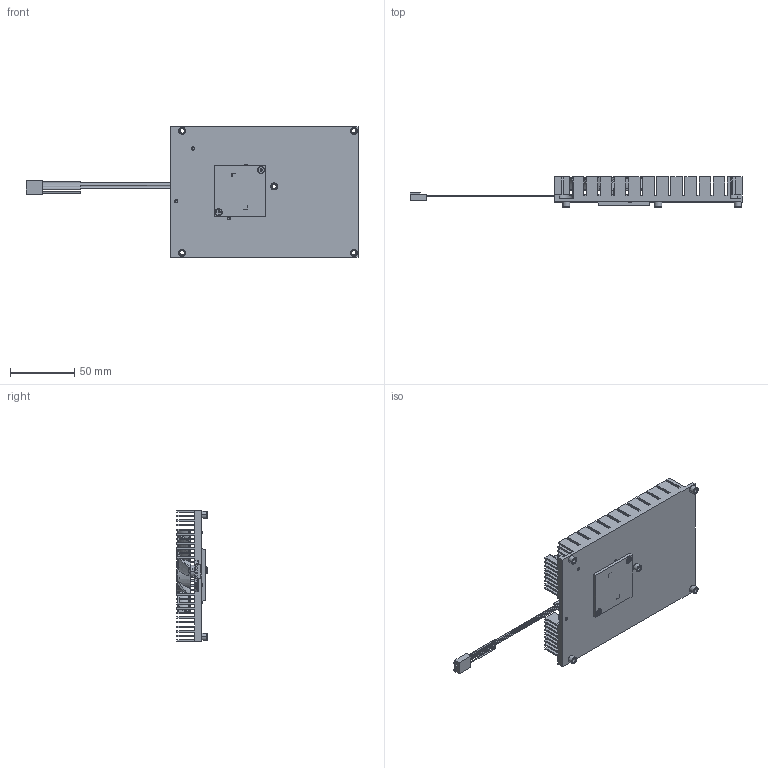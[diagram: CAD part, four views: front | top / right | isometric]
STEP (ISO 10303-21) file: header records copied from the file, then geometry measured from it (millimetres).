
FILE_DESCRIPTION((''),'2;1');
FILE_NAME('CPU_COOLER_ASM','2019-10-09T14:21:52',('jamie_liao'),(''),'CREO PARAMETRIC BY PTC INC, 2017110','CREO PARAMETRIC BY PTC INC, 2017110','');
FILE_SCHEMA(('CONFIG_CONTROL_DESIGN','GEOMETRIC_VALIDATION_PROPERTIES_MIM'));
Products named in the file (7): 9A514; 32-00112-0110-A000_ASM; E1932030401R; 40X40X2-7_CU; E1931030801R; 4PNE_CONN; CPU_COOLER_ASM
Assembly tree (10 placements, depth 2):
  CPU_COOLER_ASM
    9A514
    32-00112-0110-A000_ASM
    E1932030401R  x4
    40X40X2-7_CU
    E1931030801R  x2
    4PNE_CONN
Bounding box: 258.85 x 23.5 x 102 mm (x, y, z)
Volume: 122766.4 mm3; surface area: 132537.2 mm2
Topology: 15 solids, 15 shells, 1769 faces, 5061 edges, 3348 vertices
Faces by surface type: plane 1380, cylinder 207, bspline 82, torus 68, cone 32
Entity records: 68267 total; most frequent: CARTESIAN_POINT 22987, ORIENTED_EDGE 9424, DIRECTION 8109, EDGE_CURVE 4712, VECTOR 3905, LINE 3905, VERTEX_POINT 3116, AXIS2_PLACEMENT_3D 2102
